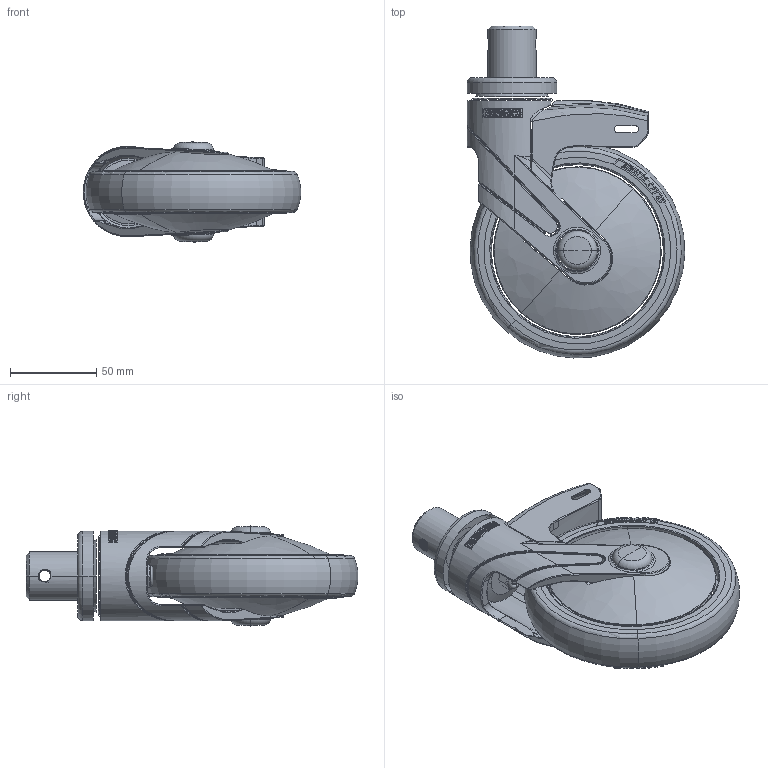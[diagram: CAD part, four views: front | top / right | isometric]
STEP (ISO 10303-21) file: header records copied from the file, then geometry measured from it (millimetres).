
FILE_DESCRIPTION((''),'2;1');
FILE_NAME('PRT0009','2025-08-13T15:44:21',('Administrator'),(''),'CREO PARAMETRIC BY PTC INC, 2022124','CREO PARAMETRIC BY PTC INC, 2022124','');
FILE_SCHEMA(('AUTOMOTIVE_DESIGN { 1 0 10303 214 1 1 1 1 }'));
Length unit declared in the file: millimetre
Products named in the file (1): PRT0009
Bounding box: 126.38 x 192.88 x 58.19 mm (x, y, z)
Surface area: 64938.8 mm2 (no closed solid volume)
Topology: 0 solids, 53 shells, 289 faces, 1905 edges, 1611 vertices
Faces by surface type: bspline 70, torus 67, cylinder 60, cone 52, plane 36, sphere 4
Entity records: 32603 total; most frequent: CARTESIAN_POINT 19317, ORIENTED_EDGE 2279, EDGE_CURVE 1897, VERTEX_POINT 1611, DIRECTION 1428, B_SPLINE_CURVE_WITH_KNOTS 1301, AXIS2_PLACEMENT_3D 600, CIRCLE 371
